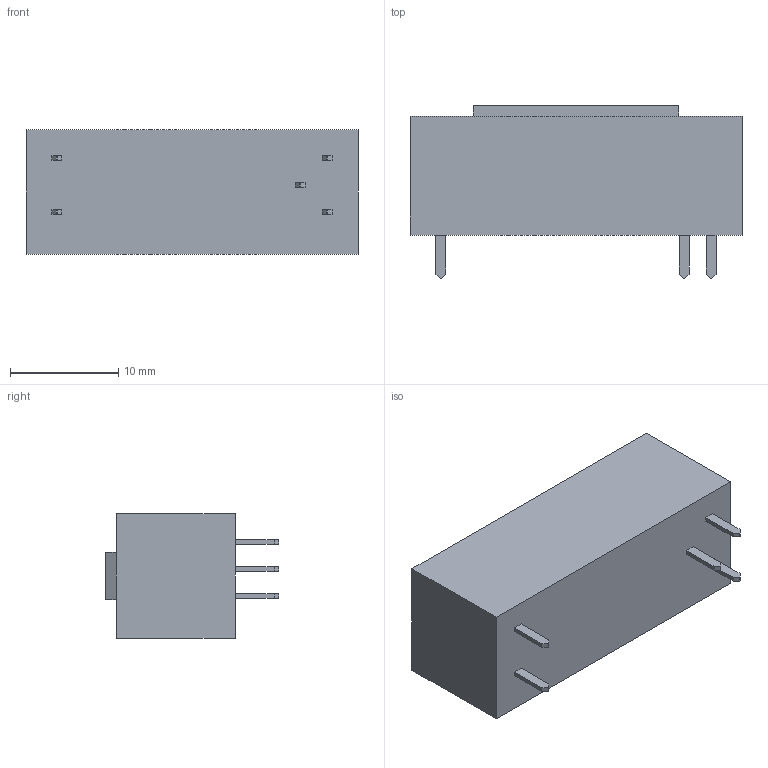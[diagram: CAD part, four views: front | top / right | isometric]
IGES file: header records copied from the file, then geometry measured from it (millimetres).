
Start section: SolidWorks IGES file using analytic representation for surfaces
Global section: file name: D:\X - Arquivos\PROEX\Empresas\P11 - METALTEX\01 - Produtos\IGES\7ª remessa\2ª etapa\RD1RC4.IGS; native system: SolidWorks 2012; preprocessor: SolidWorks 2012; author: Usuario; date: 190912.134846; units: millimetre
Bounding box: 30.7 x 16 x 11.5 mm (x, y, z)
Surface area: 1920.8 mm2 (no closed solid volume)
Topology: 0 solids, 0 shells, 137 faces, 696 edges, 696 vertices
Faces by surface type: bspline 137
